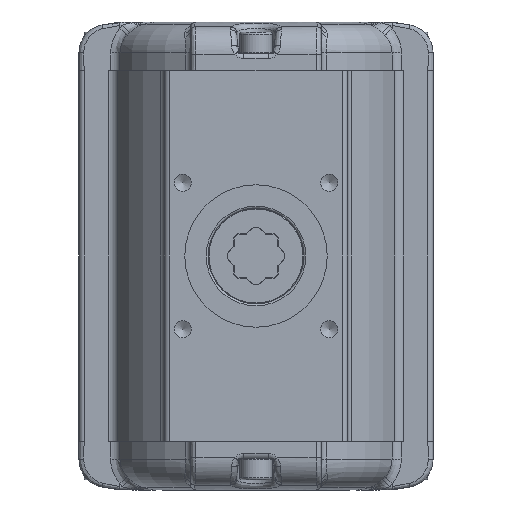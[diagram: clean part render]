
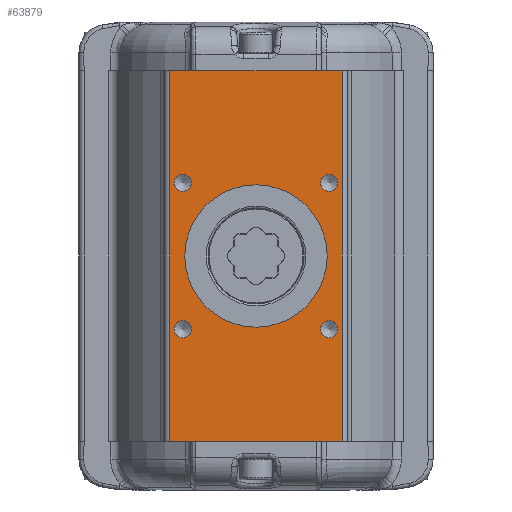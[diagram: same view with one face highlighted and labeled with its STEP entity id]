
A CAD part, front view. The second image highlights one B-rep face of the part: STEP entity #63879.
In plain terms, the highlighted planar face has unit normal (0, -1, 0).
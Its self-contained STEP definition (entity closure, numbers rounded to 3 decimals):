
#30574=CARTESIAN_POINT('',(-42.5,-89.,91.0));
#30575=VERTEX_POINT('',#30574);
#30583=CARTESIAN_POINT('',(42.5,-89.,91.0));
#30584=VERTEX_POINT('',#30583);
#30585=CARTESIAN_POINT('',(42.5,-89.,91.0));
#30586=DIRECTION('',(-1.0,0.0,0.0));
#30587=VECTOR('',#30586,85.0);
#30588=LINE('',#30585,#30587);
#30589=EDGE_CURVE('',#30584,#30575,#30588,.T.);
#57069=CARTESIAN_POINT('',(42.5,-89.,-91.0));
#57070=VERTEX_POINT('',#57069);
#57078=CARTESIAN_POINT('',(-42.5,-89.,-91.0));
#57079=VERTEX_POINT('',#57078);
#57080=CARTESIAN_POINT('',(-42.5,-89.,-91.0));
#57081=DIRECTION('',(1.0,0.0,0.0));
#57082=VECTOR('',#57081,85.0);
#57083=LINE('',#57080,#57082);
#57084=EDGE_CURVE('',#57079,#57070,#57083,.T.);
#62359=CARTESIAN_POINT('',(-31.874,-89.,36.062));
#62360=VERTEX_POINT('',#62359);
#62361=CARTESIAN_POINT('',(-36.062,-89.,36.062));
#62362=DIRECTION('',(0.0,1.0,0.0));
#62363=DIRECTION('',(1.0,0.0,0.0));
#62364=AXIS2_PLACEMENT_3D('',#62361,#62362,#62363);
#62365=CIRCLE('',#62364,4.188);
#62366=EDGE_CURVE('',#62360,#62360,#62365,.T.);
#62438=CARTESIAN_POINT('',(40.25,-89.,-36.062));
#62439=VERTEX_POINT('',#62438);
#62440=CARTESIAN_POINT('',(36.062,-89.,-36.062));
#62441=DIRECTION('',(0.0,1.0,0.0));
#62442=DIRECTION('',(1.0,0.0,0.0));
#62443=AXIS2_PLACEMENT_3D('',#62440,#62441,#62442);
#62444=CIRCLE('',#62443,4.188);
#62445=EDGE_CURVE('',#62439,#62439,#62444,.T.);
#62517=CARTESIAN_POINT('',(-31.874,-89.,-36.062));
#62518=VERTEX_POINT('',#62517);
#62519=CARTESIAN_POINT('',(-36.062,-89.,-36.062));
#62520=DIRECTION('',(0.0,1.0,0.0));
#62521=DIRECTION('',(1.0,0.0,0.0));
#62522=AXIS2_PLACEMENT_3D('',#62519,#62520,#62521);
#62523=CIRCLE('',#62522,4.188);
#62524=EDGE_CURVE('',#62518,#62518,#62523,.T.);
#62596=CARTESIAN_POINT('',(40.25,-89.,36.062));
#62597=VERTEX_POINT('',#62596);
#62598=CARTESIAN_POINT('',(36.062,-89.,36.062));
#62599=DIRECTION('',(0.0,1.0,0.0));
#62600=DIRECTION('',(1.0,0.0,0.0));
#62601=AXIS2_PLACEMENT_3D('',#62598,#62599,#62600);
#62602=CIRCLE('',#62601,4.188);
#62603=EDGE_CURVE('',#62597,#62597,#62602,.T.);
#62616=CARTESIAN_POINT('',(0.0,-89.,35.0));
#62617=VERTEX_POINT('',#62616);
#62618=CARTESIAN_POINT('',(0.0,-89.,0.0));
#62619=DIRECTION('',(0.0,1.0,0.0));
#62620=DIRECTION('',(0.0,0.0,1.0));
#62621=AXIS2_PLACEMENT_3D('',#62618,#62619,#62620);
#62622=CIRCLE('',#62621,35.0);
#62623=EDGE_CURVE('',#62617,#62617,#62622,.T.);
#63832=CARTESIAN_POINT('',(42.5,-89.,91.0));
#63833=DIRECTION('',(0.0,0.0,-1.0));
#63834=VECTOR('',#63833,182.0);
#63835=LINE('',#63832,#63834);
#63836=EDGE_CURVE('',#30584,#57070,#63835,.T.);
#63848=CARTESIAN_POINT('',(45.0,-89.,0.0));
#63849=DIRECTION('',(0.0,-1.0,0.0));
#63850=DIRECTION('',(0.0,0.0,-1.0));
#63851=AXIS2_PLACEMENT_3D('',#63848,#63849,#63850);
#63852=PLANE('',#63851);
#63853=ORIENTED_EDGE('',*,*,#63836,.F.);
#63854=ORIENTED_EDGE('',*,*,#30589,.T.);
#63855=CARTESIAN_POINT('',(-42.5,-89.,-91.0));
#63856=DIRECTION('',(0.0,0.0,1.0));
#63857=VECTOR('',#63856,182.0);
#63858=LINE('',#63855,#63857);
#63859=EDGE_CURVE('',#57079,#30575,#63858,.T.);
#63860=ORIENTED_EDGE('',*,*,#63859,.F.);
#63861=ORIENTED_EDGE('',*,*,#57084,.T.);
#63862=EDGE_LOOP('',(#63853,#63854,#63860,#63861));
#63863=FACE_OUTER_BOUND('',#63862,.T.);
#63864=ORIENTED_EDGE('',*,*,#62366,.T.);
#63865=EDGE_LOOP('',(#63864));
#63866=FACE_BOUND('',#63865,.T.);
#63867=ORIENTED_EDGE('',*,*,#62445,.T.);
#63868=EDGE_LOOP('',(#63867));
#63869=FACE_BOUND('',#63868,.T.);
#63870=ORIENTED_EDGE('',*,*,#62524,.T.);
#63871=EDGE_LOOP('',(#63870));
#63872=FACE_BOUND('',#63871,.T.);
#63873=ORIENTED_EDGE('',*,*,#62603,.T.);
#63874=EDGE_LOOP('',(#63873));
#63875=FACE_BOUND('',#63874,.T.);
#63876=ORIENTED_EDGE('',*,*,#62623,.T.);
#63877=EDGE_LOOP('',(#63876));
#63878=FACE_BOUND('',#63877,.T.);
#63879=ADVANCED_FACE('',(#63863,#63866,#63869,#63872,#63875,#63878),#63852,.T.);
